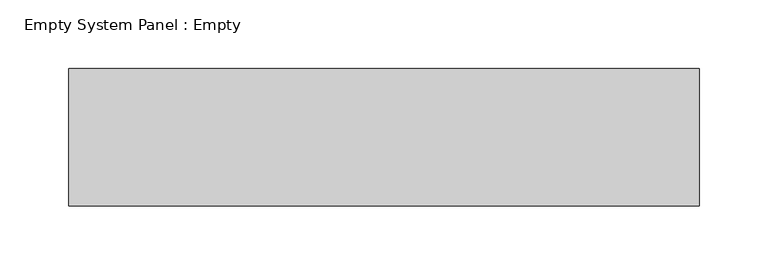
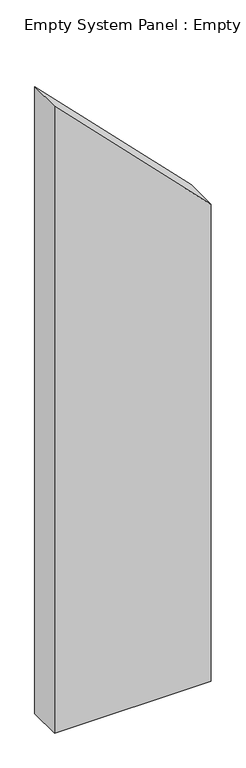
"""IFC4 building model written with IfcOpenShell, lengths in millimetres: plate geometry, Empty System Panel : Empty."""

from ifc_helpers import new_model, si_unit, frame, origin, place, context, project, spatial, polyline, outline, extrude, source, transform, mapped, element, save


def empty_system_panel_empty_0af2d2b1(model_context):
    return source(origin(), model_context, "Body", "SweptSolid", [
        extrude(outline(polyline([(0.0, -229.6046705), (0.0, 229.6046705), (1477.7205154, 229.6046705), (1942.0672245, -229.6046705), (0.0, -229.6046705)])), frame((0.0, -50.0, 0.0), z_axis=(0.0, 1.0, 0.0), x_axis=(0.0, 0.0, 1.0)), (0.0, 0.0, 1.0), 100.0),
    ])


if __name__ == "__main__":
    model = new_model("IFC4")
    model_context = context("Model", 3, world=origin())
    ifc_project = project(units=[si_unit("LENGTHUNIT", "METRE", prefix="MILLI")], contexts=[model_context])
    site = spatial("IfcSite", under=ifc_project)
    building = spatial("IfcBuilding", under=site)
    placement = place(None, origin())
    empty_system_panel_empty_shape = empty_system_panel_empty_0af2d2b1(model_context)
    element("IfcPlate", 1, ObjectType="Empty System Panel : Empty", at=placement, inside=building, context=model_context, shape_type="MappedRepresentation", body=[
        mapped(empty_system_panel_empty_shape, transform((0.0, 0.0, 0.0), x_axis=(1.0, 0.0, 0.0), y_axis=(0.0, 1.0, 0.0), z_axis=(0.0, 0.0, 1.0))),
    ])
    save(model, "model.ifc")
